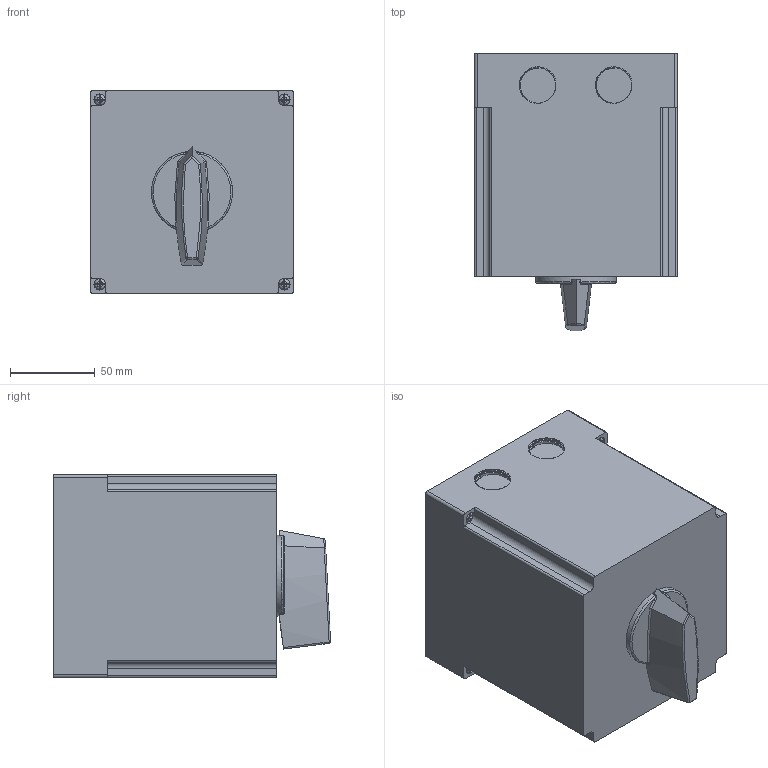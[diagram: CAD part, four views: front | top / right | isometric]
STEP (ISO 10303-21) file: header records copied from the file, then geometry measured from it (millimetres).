
FILE_DESCRIPTION(/* description */ (''),/* implementation_level */ '2;1');
FILE_NAME(/* name */ '4G40,63,80-PK-IP55_3_lub_4_korpusy.stp',/* time_stamp */ '2021-07-22T08:39:38+02:00',/* author */ (''),/* organization */ (''),/* preprocessor_version */ 'ST-DEVELOPER v18.1',/* originating_system */ 'SIEMENS PLM Software NX 1965',/* authorisation */ '');
FILE_SCHEMA (('PROCESS_PLANNING_SCHEMA'));
Length unit declared in the file: millimetre
Products named in the file (1): 4G40,63,80-PK-IP55_3_lub_4_korpusy_stp
Bounding box: 120 x 163.95 x 120 mm (x, y, z)
Surface area: 98355.7 mm2 (no closed solid volume)
Topology: 0 solids, 5 shells, 245 faces, 671 edges, 438 vertices
Faces by surface type: plane 101, cylinder 95, bspline 32, cone 9, torus 6, sphere 2
Full cylindrical faces by diameter (mm): 2.9 x24, 3.5 x4, 5.3 x4, 7 x4, 21 x8, 48 x1
Entity records: 14546 total; most frequent: CARTESIAN_POINT 9698, ORIENTED_EDGE 1024, DIRECTION 895, EDGE_CURVE 512, VERTEX_POINT 350, AXIS2_PLACEMENT_3D 347, EDGE_LOOP 268, ADVANCED_FACE 218
